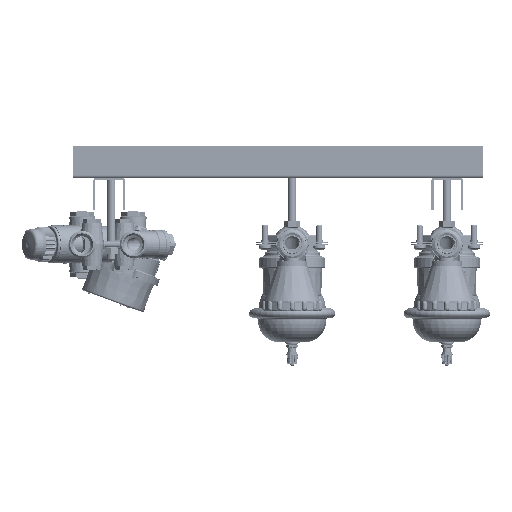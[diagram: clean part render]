
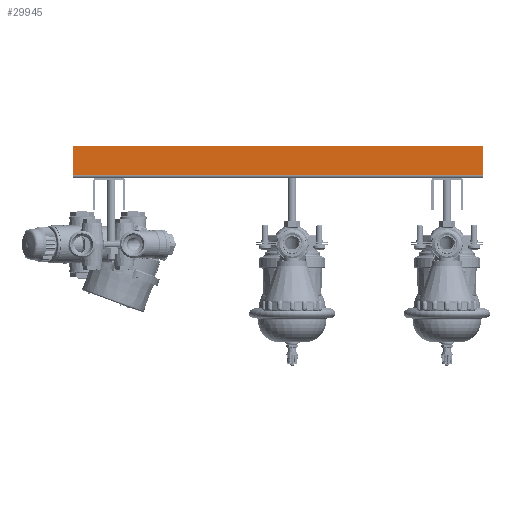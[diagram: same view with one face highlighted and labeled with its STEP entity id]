
A CAD part, front view. The second image highlights one B-rep face of the part: STEP entity #29945.
In plain terms, the highlighted planar face has unit normal (0, -1, 0) as drawn and (1, 0, 0) by its records, which use the part's own axes.
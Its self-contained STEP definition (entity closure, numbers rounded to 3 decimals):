
#29945=ADVANCED_FACE('',(#124489),#124491,.T.);
#124489=FACE_BOUND('',#124490,.T.);
#124490=EDGE_LOOP('',(#279603,#279604,#279605,#279606));
#124491=PLANE('',#124492);
#124492=AXIS2_PLACEMENT_3D('',#124493,#124494,#124495);
#124493=CARTESIAN_POINT('',(15.5,-400.,-2.5));
#124494=DIRECTION('',(1.,0.,0.));
#124495=DIRECTION('',(0.,0.,-1.));
#279603=ORIENTED_EDGE('',*,*,#349328,.T.);
#279604=ORIENTED_EDGE('',*,*,#349356,.T.);
#279605=ORIENTED_EDGE('',*,*,#349346,.F.);
#279606=ORIENTED_EDGE('',*,*,#349353,.F.);
#349328=EDGE_CURVE('',#404732,#404729,#404733,.T.);
#349346=EDGE_CURVE('',#404761,#404763,#404764,.T.);
#349353=EDGE_CURVE('',#404732,#404761,#404771,.T.);
#349356=EDGE_CURVE('',#404729,#404763,#404774,.T.);
#404729=VERTEX_POINT('',#607326);
#404732=VERTEX_POINT('',#607331);
#404733=LINE('',#607332,#607333);
#404761=VERTEX_POINT('',#607401);
#404763=VERTEX_POINT('',#607406);
#404764=LINE('',#607407,#607408);
#404771=LINE('',#607428,#607429);
#404774=LINE('',#607437,#607438);
#607326=CARTESIAN_POINT('',(15.5,-400.,-31.2));
#607331=CARTESIAN_POINT('',(15.5,-400.,-2.5));
#607332=CARTESIAN_POINT('',(15.5,-400.,-2.5));
#607333=VECTOR('',#607334,1.);
#607334=DIRECTION('',(0.,0.,-1.));
#607401=CARTESIAN_POINT('',(15.5,0.,-2.5));
#607406=CARTESIAN_POINT('',(15.5,0.,-31.2));
#607407=CARTESIAN_POINT('',(15.5,0.,-2.5));
#607408=VECTOR('',#607409,1.);
#607409=DIRECTION('',(0.,0.,-1.));
#607428=CARTESIAN_POINT('',(15.5,-400.,-2.5));
#607429=VECTOR('',#607430,1.);
#607430=DIRECTION('',(0.,1.,0.));
#607437=CARTESIAN_POINT('',(15.5,-400.,-31.2));
#607438=VECTOR('',#607439,1.);
#607439=DIRECTION('',(0.,1.,0.));
